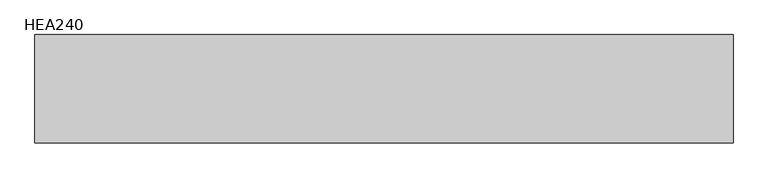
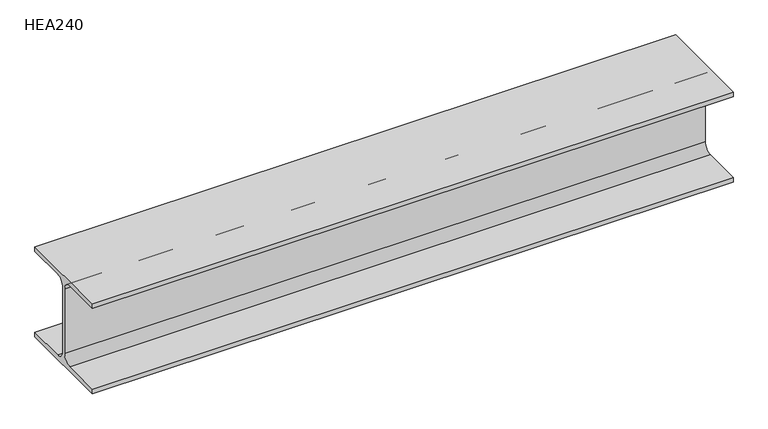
"""IFC4 building model written with IfcOpenShell, lengths in millimetres: beam geometry, HE-A : HEA240."""

from ifc_helpers import new_model, si_unit, point, frame, frame_2d, origin, place, context, project, spatial, polyline, circle_curve, trimmed, segment, composite_curve, outline, extrude, source, transform, mapped, element, save


def hea240_e4eec9e4(model_context):
    return source(origin(), model_context, "Body", "SweptSolid", [
        extrude(outline(composite_curve([segment(polyline([(120.0, -103.0), (120.0, -115.0), (-120.0, -115.0), (-120.0, -103.0), (-24.75, -103.0)]), True, "CONTINUOUS"), segment(trimmed(circle_curve(frame_2d((-24.75, -82.0)), 21.0), [point((-24.75, -103.0))], [point((-3.75, -82.0))], True, "CARTESIAN"), True, "CONTINUOUS"), segment(polyline([(-3.75, -82.0), (-3.75, 82.0)]), True, "CONTINUOUS"), segment(trimmed(circle_curve(frame_2d((-24.75, 82.0)), 21.0), [point((-3.75, 82.0))], [point((-24.75, 103.0))], True, "CARTESIAN"), True, "CONTINUOUS"), segment(polyline([(-24.75, 103.0), (-120.0, 103.0), (-120.0, 115.0), (120.0, 115.0), (120.0, 103.0), (24.75, 103.0)]), True, "CONTINUOUS"), segment(trimmed(circle_curve(frame_2d((24.75, 82.0)), 21.0), [point((24.75, 103.0))], [point((3.75, 82.0))], True, "CARTESIAN"), True, "CONTINUOUS"), segment(polyline([(3.75, 82.0), (3.75, -82.0)]), True, "CONTINUOUS"), segment(trimmed(circle_curve(frame_2d((24.75, -82.0)), 21.0), [point((3.75, -82.0))], [point((24.75, -103.0))], True, "CARTESIAN"), True, "CONTINUOUS"), segment(polyline([(24.75, -103.0), (120.0, -103.0)]), True, "CONTINUOUS")], self_intersect=False)), frame((-772.3, 0.0, 0.0), z_axis=(1.0, 0.0, 0.0), x_axis=(0.0, 1.0, 0.0)), (0.0, 0.0, 1.0), 1544.6),
    ])


if __name__ == "__main__":
    model = new_model("IFC4")
    model_context = context("Model", 3, world=origin())
    ifc_project = project(units=[si_unit("LENGTHUNIT", "METRE", prefix="MILLI")], contexts=[model_context])
    site = spatial("IfcSite", under=ifc_project)
    building = spatial("IfcBuilding", under=site)
    placement = place(None, origin())
    hea240_shape = hea240_e4eec9e4(model_context)
    element("IfcBeam", 1, ObjectType="HE-A : HEA240", at=placement, inside=building, context=model_context, shape_type="MappedRepresentation", body=[
        mapped(hea240_shape, transform((0.0, 0.0, 0.0), x_axis=(1.0, 0.0, 0.0), y_axis=(0.0, 1.0, 0.0), z_axis=(0.0, 0.0, 1.0))),
    ])
    save(model, "model.ifc")
